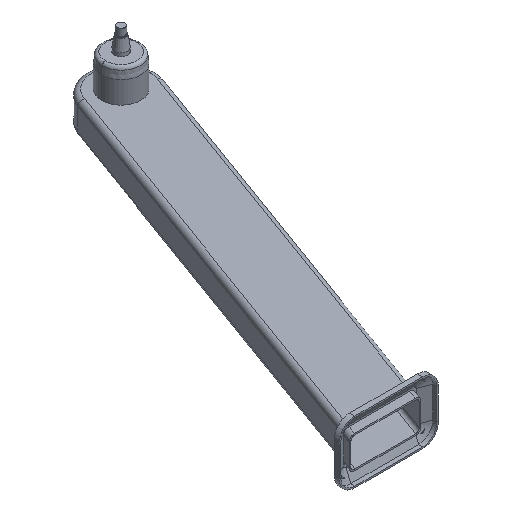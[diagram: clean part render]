
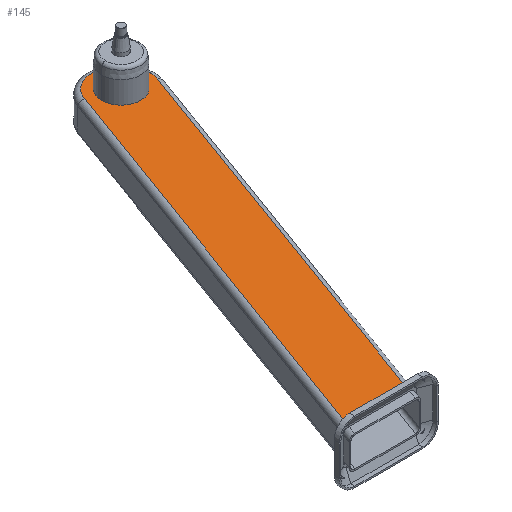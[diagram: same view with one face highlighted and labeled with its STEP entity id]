
A CAD part, isometric view. The second image highlights one B-rep face of the part: STEP entity #145.
In plain terms, the highlighted planar face has unit normal (0, 0, 1).
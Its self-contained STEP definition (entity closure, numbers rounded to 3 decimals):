
#36 = EDGE_CURVE ( 'NONE', #462, #505, #1870, .T. ) ;
#103 = CARTESIAN_POINT ( 'NONE',  ( 0., -780., 31.25 ) ) ;
#108 = DIRECTION ( 'NONE',  ( 0.342, 0.94, 0. ) ) ;
#145 = ADVANCED_FACE ( 'NONE', ( #2906, #955 ), #2423, .T. ) ;
#223 = ORIENTED_EDGE ( 'NONE', *, *, #36, .T. ) ;
#226 = VERTEX_POINT ( 'NONE', #2564 ) ;
#317 = EDGE_CURVE ( 'NONE', #226, #462, #2348, .T. ) ;
#335 = AXIS2_PLACEMENT_3D ( 'NONE', #1172, #2961, #1426 ) ;
#379 = CARTESIAN_POINT ( 'NONE',  ( 0., 0., 31.25 ) ) ;
#380 = LINE ( 'NONE', #103, #2278 ) ;
#462 = VERTEX_POINT ( 'NONE', #3020 ) ;
#505 = VERTEX_POINT ( 'NONE', #1254 ) ;
#537 = VECTOR ( 'NONE', #799, 1000. ) ;
#591 = DIRECTION ( 'NONE',  ( 0., 0., 1. ) ) ;
#648 = DIRECTION ( 'NONE',  ( 0., 0., 1. ) ) ;
#691 = EDGE_CURVE ( 'NONE', #1110, #2517, #1303, .T. ) ;
#717 = CARTESIAN_POINT ( 'NONE',  ( -38., 0., 31.25 ) ) ;
#760 = AXIS2_PLACEMENT_3D ( 'NONE', #2366, #2588, #1053 ) ;
#799 = DIRECTION ( 'NONE',  ( -0.342, -0.94, 0. ) ) ;
#910 = ORIENTED_EDGE ( 'NONE', *, *, #1596, .T. ) ;
#955 = FACE_BOUND ( 'NONE', #1398, .T. ) ;
#978 = AXIS2_PLACEMENT_3D ( 'NONE', #2135, #591, #2379 ) ;
#1034 = DIRECTION ( 'NONE',  ( 0., 0., 1. ) ) ;
#1053 = DIRECTION ( 'NONE',  ( 1., 0., 0. ) ) ;
#1110 = VERTEX_POINT ( 'NONE', #2313 ) ;
#1171 = LINE ( 'NONE', #1923, #2545 ) ;
#1172 = CARTESIAN_POINT ( 'NONE',  ( 0., 0., 31.25 ) ) ;
#1254 = CARTESIAN_POINT ( 'NONE',  ( -51.683, 18.811, 31.25 ) ) ;
#1303 = CIRCLE ( 'NONE', #978, 38. ) ;
#1368 = CIRCLE ( 'NONE', #2505, 38. ) ;
#1398 = EDGE_LOOP ( 'NONE', ( #2724, #2272 ) ) ;
#1426 = DIRECTION ( 'NONE',  ( 1., 0., 0. ) ) ;
#1533 = EDGE_CURVE ( 'NONE', #2517, #1110, #1368, .T. ) ;
#1596 = EDGE_CURVE ( 'NONE', #505, #2285, #1981, .T. ) ;
#1654 = DIRECTION ( 'NONE',  ( 1., 0., 0. ) ) ;
#1830 = EDGE_CURVE ( 'NONE', #2678, #226, #1171, .T. ) ;
#1870 = CIRCLE ( 'NONE', #2193, 55. ) ;
#1923 = CARTESIAN_POINT ( 'NONE',  ( 51.683, -18.811, 31.25 ) ) ;
#1968 = ORIENTED_EDGE ( 'NONE', *, *, #317, .T. ) ;
#1981 = LINE ( 'NONE', #2327, #537 ) ;
#2056 = ORIENTED_EDGE ( 'NONE', *, *, #3136, .T. ) ;
#2097 = CARTESIAN_POINT ( 'NONE',  ( -225.367, -780., 31.25 ) ) ;
#2135 = CARTESIAN_POINT ( 'NONE',  ( 0., 0., 31.25 ) ) ;
#2193 = AXIS2_PLACEMENT_3D ( 'NONE', #379, #648, #2440 ) ;
#2272 = ORIENTED_EDGE ( 'NONE', *, *, #1533, .F. ) ;
#2278 = VECTOR ( 'NONE', #1654, 1000. ) ;
#2285 = VERTEX_POINT ( 'NONE', #2406 ) ;
#2313 = CARTESIAN_POINT ( 'NONE',  ( 38., 0., 31.25 ) ) ;
#2327 = CARTESIAN_POINT ( 'NONE',  ( -350.951, -803.42, 31.25 ) ) ;
#2348 = CIRCLE ( 'NONE', #335, 55. ) ;
#2366 = CARTESIAN_POINT ( 'NONE',  ( 0., 0., 31.25 ) ) ;
#2379 = DIRECTION ( 'NONE',  ( 1., 0., 0. ) ) ;
#2406 = CARTESIAN_POINT ( 'NONE',  ( -342.427, -780., 31.25 ) ) ;
#2423 = PLANE ( 'NONE',  #760 ) ;
#2440 = DIRECTION ( 'NONE',  ( 1., 0., 0. ) ) ;
#2505 = AXIS2_PLACEMENT_3D ( 'NONE', #2569, #1034, #2818 ) ;
#2517 = VERTEX_POINT ( 'NONE', #717 ) ;
#2533 = EDGE_LOOP ( 'NONE', ( #2876, #1968, #223, #910, #2056 ) ) ;
#2545 = VECTOR ( 'NONE', #108, 1000. ) ;
#2564 = CARTESIAN_POINT ( 'NONE',  ( 51.683, -18.811, 31.25 ) ) ;
#2569 = CARTESIAN_POINT ( 'NONE',  ( 0., 0., 31.25 ) ) ;
#2588 = DIRECTION ( 'NONE',  ( 0., 0., 1. ) ) ;
#2678 = VERTEX_POINT ( 'NONE', #2097 ) ;
#2724 = ORIENTED_EDGE ( 'NONE', *, *, #691, .F. ) ;
#2818 = DIRECTION ( 'NONE',  ( 1., 0., 0. ) ) ;
#2876 = ORIENTED_EDGE ( 'NONE', *, *, #1830, .T. ) ;
#2906 = FACE_OUTER_BOUND ( 'NONE', #2533, .T. ) ;
#2961 = DIRECTION ( 'NONE',  ( 0., 0., 1. ) ) ;
#3020 = CARTESIAN_POINT ( 'NONE',  ( 55., 0., 31.25 ) ) ;
#3136 = EDGE_CURVE ( 'NONE', #2285, #2678, #380, .T. ) ;
